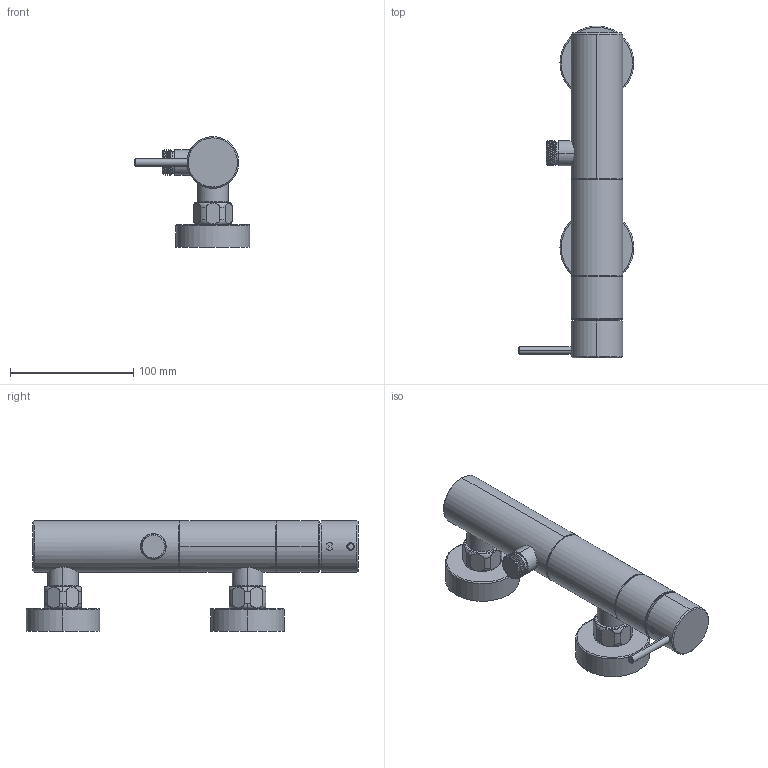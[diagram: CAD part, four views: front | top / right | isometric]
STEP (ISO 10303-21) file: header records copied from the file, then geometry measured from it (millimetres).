
FILE_DESCRIPTION((''),'2;1');
FILE_NAME('SHOWER_ONO150MM_EU_AS_SW0001','2023-10-16T10:45:25',('YY993'),(''),'CREO PARAMETRIC BY PTC INC, 2022244','CREO PARAMETRIC BY PTC INC, 2022244','');
FILE_SCHEMA(('CONFIG_CONTROL_DESIGN'));
Length unit declared in the file: millimetre
Products named in the file (1): SHOWER_ONO150MM_EU_AS_SW0001
Bounding box: 93.9 x 269.85 x 90 mm (x, y, z)
Volume: 516743.3 mm3; surface area: 63484.8 mm2
Topology: 1 solids, 1 shells, 133 faces, 315 edges, 200 vertices
Faces by surface type: cylinder 51, plane 32, torus 28, cone 12, bspline 8, sphere 2
Entity records: 9515 total; most frequent: CARTESIAN_POINT 6434, DIRECTION 653, ORIENTED_EDGE 626, EDGE_CURVE 313, AXIS2_PLACEMENT_3D 289, VERTEX_POINT 200, CIRCLE 164, EDGE_LOOP 151
